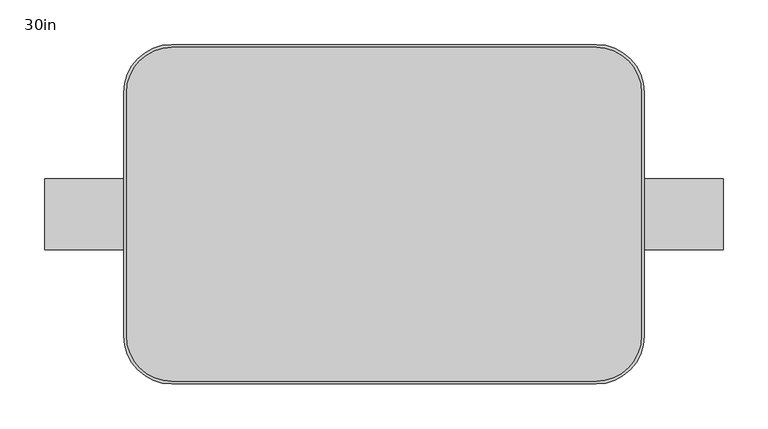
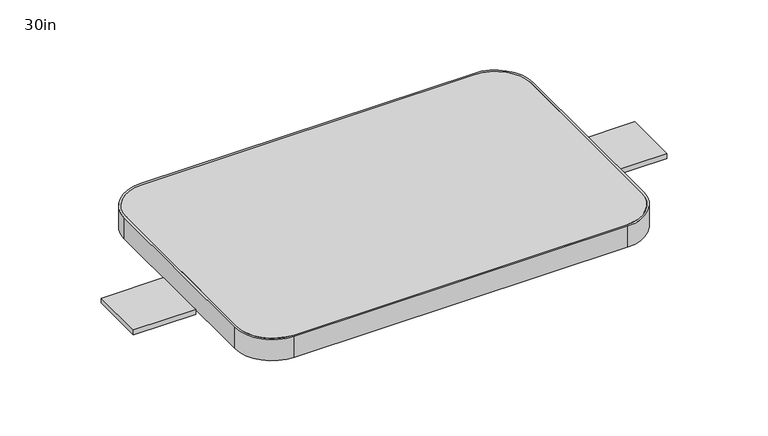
"""IFC4 building model written with IfcOpenShell, lengths in millimetres: furniture geometry, Steelcase - Answer Solution - Transaction Worksurface - Square Trim - 3mm Edge : 30in."""

from ifc_helpers import new_model, si_unit, point, frame, frame_2d, origin, place, context, project, spatial, polyline, circle_curve, trimmed, segment, composite_curve, outline, extrude, source, transform, mapped, element, save


def furniture_30in_f4545fb5(model_context):
    return source(origin(), model_context, "Body", "SweptSolid", [
        extrude(outline(polyline([(88.9003876, 0.0), (88.9003876, -79.3748062), (0.0, -79.3748062), (0.0, 0.0), (88.9003876, 0.0)])), frame((0.0, 0.0, 1044.7273647), z_axis=(0.0, 0.0, 1.0), x_axis=(1.0, 0.0, 0.0)), (0.0, 0.0, 1.0), 7.340613),
        extrude(outline(polyline([(762.0, 0.0), (762.0, -79.3748062), (673.0996124, -79.3748062), (673.0996124, 0.0), (762.0, 0.0)])), frame((0.0, 0.0, 1044.7273647), z_axis=(0.0, 0.0, 1.0), x_axis=(1.0, 0.0, 0.0)), (0.0, 0.0, 1.0), 7.340613),
        extrude(outline(composite_curve([segment(trimmed(circle_curve(frame_2d((619.1248062, 96.8375)), 50.8), [point((619.1248062, 147.6375))], [point((669.9248062, 96.8375))], False, "CARTESIAN"), True, "CONTINUOUS"), segment(polyline([(669.9248062, 96.8375), (669.9248062, -176.2123062)]), True, "CONTINUOUS"), segment(trimmed(circle_curve(frame_2d((619.1248062, -176.2123062)), 50.8), [point((669.9248062, -176.2123062))], [point((619.1248062, -227.0123062))], False, "CARTESIAN"), True, "CONTINUOUS"), segment(polyline([(619.1248062, -227.0123062), (142.8751938, -227.0123062)]), True, "CONTINUOUS"), segment(trimmed(circle_curve(frame_2d((142.8751938, -176.2123062)), 50.8), [point((142.8751938, -227.0123062))], [point((92.0751938, -176.2123062))], False, "CARTESIAN"), True, "CONTINUOUS"), segment(polyline([(92.0751938, -176.2123062), (92.0751938, 96.8375)]), True, "CONTINUOUS"), segment(trimmed(circle_curve(frame_2d((142.8751938, 96.8375)), 50.8), [point((92.0751938, 96.8375))], [point((142.8751938, 147.6375))], False, "CARTESIAN"), True, "CONTINUOUS"), segment(polyline([(142.8751938, 147.6375), (619.1248062, 147.6375)]), True, "CONTINUOUS")], self_intersect=False)), frame((0.0, 0.0, 1052.0679777), z_axis=(0.0, 0.0, 1.0), x_axis=(1.0, 0.0, 0.0)), (0.0, 0.0, 1.0), 31.7500242),
        extrude(outline(composite_curve([segment(polyline([(619.1248062, -230.1871124), (142.8751938, -230.1871124)]), True, "CONTINUOUS"), segment(trimmed(circle_curve(frame_2d((142.8751938, -176.2123062)), 53.9748062), [point((142.8751938, -230.1871124))], [point((88.9003876, -176.2123062))], False, "CARTESIAN"), True, "CONTINUOUS"), segment(polyline([(88.9003876, -176.2123062), (88.9003876, 96.8375)]), True, "CONTINUOUS"), segment(trimmed(circle_curve(frame_2d((142.8751938, 96.8375)), 53.9748062), [point((88.9003876, 96.8375))], [point((142.8751938, 150.8123062))], False, "CARTESIAN"), True, "CONTINUOUS"), segment(polyline([(142.8751938, 150.8123062), (619.1248062, 150.8123062)]), True, "CONTINUOUS"), segment(trimmed(circle_curve(frame_2d((619.1248062, 96.8375)), 53.9748062), [point((619.1248062, 150.8123062))], [point((673.0996124, 96.8375))], False, "CARTESIAN"), True, "CONTINUOUS"), segment(polyline([(673.0996124, 96.8375), (673.0996124, -176.2123062)]), True, "CONTINUOUS"), segment(trimmed(circle_curve(frame_2d((619.1248062, -176.2123062)), 53.9748062), [point((673.0996124, -176.2123062))], [point((619.1248062, -230.1871124))], False, "CARTESIAN"), True, "CONTINUOUS")], self_intersect=False), holes=[composite_curve([segment(trimmed(circle_curve(frame_2d((142.8751938, 96.8375)), 50.8), [point((142.8751938, 147.6375))], [point((92.0751938, 96.8375))], True, "CARTESIAN"), True, "CONTINUOUS"), segment(polyline([(92.0751938, 96.8375), (92.0751938, -176.2123062)]), True, "CONTINUOUS"), segment(trimmed(circle_curve(frame_2d((142.8751938, -176.2123062)), 50.8), [point((92.0751938, -176.2123062))], [point((142.8751938, -227.0123062))], True, "CARTESIAN"), True, "CONTINUOUS"), segment(polyline([(142.8751938, -227.0123062), (619.1248062, -227.0123062)]), True, "CONTINUOUS"), segment(trimmed(circle_curve(frame_2d((619.1248062, -176.2123062)), 50.8), [point((619.1248062, -227.0123062))], [point((669.9248062, -176.2123062))], True, "CARTESIAN"), True, "CONTINUOUS"), segment(polyline([(669.9248062, -176.2123062), (669.9248062, 96.8375)]), True, "CONTINUOUS"), segment(trimmed(circle_curve(frame_2d((619.1248062, 96.8375)), 50.8), [point((669.9248062, 96.8375))], [point((619.1248062, 147.6375))], True, "CARTESIAN"), True, "CONTINUOUS"), segment(polyline([(619.1248062, 147.6375), (142.8751938, 147.6375)]), True, "CONTINUOUS")], self_intersect=False)]), frame((0.0, 0.0, 1052.0679777), z_axis=(0.0, 0.0, 1.0), x_axis=(1.0, 0.0, 0.0)), (0.0, 0.0, 1.0), 31.7500242),
    ])


if __name__ == "__main__":
    model = new_model("IFC4")
    model_context = context("Model", 3, world=origin())
    ifc_project = project(units=[si_unit("LENGTHUNIT", "METRE", prefix="MILLI")], contexts=[model_context])
    site = spatial("IfcSite", under=ifc_project)
    building = spatial("IfcBuilding", under=site)
    placement = place(None, origin())
    furniture_30in_shape = furniture_30in_f4545fb5(model_context)
    element("IfcFurniture", 1, ObjectType="Steelcase - Answer Solution - Transaction Worksurface - Square Trim - 3mm Edge : 30in", at=placement, inside=building, context=model_context, shape_type="MappedRepresentation", body=[
        mapped(furniture_30in_shape, transform((0.0, 0.0, 0.0), x_axis=(1.0, 0.0, 0.0), y_axis=(0.0, 1.0, 0.0), z_axis=(0.0, 0.0, 1.0))),
    ])
    save(model, "model.ifc")
